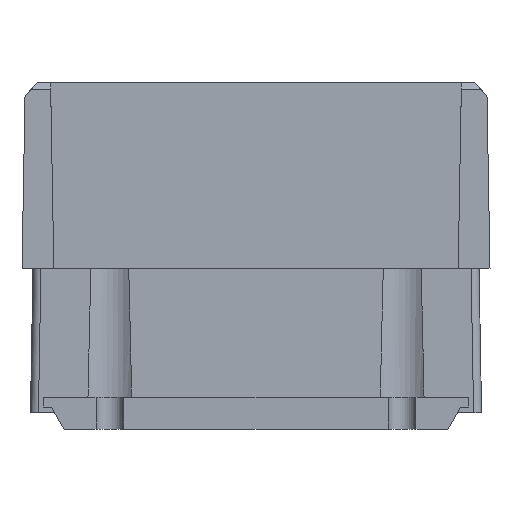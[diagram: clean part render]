
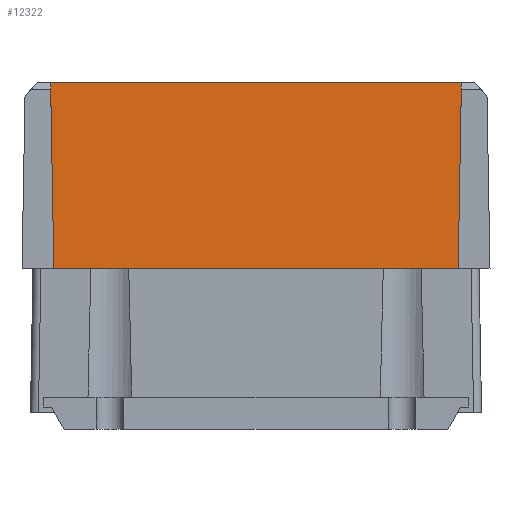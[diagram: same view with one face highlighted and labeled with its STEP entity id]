
A CAD part, left-side view. The second image highlights one B-rep face of the part: STEP entity #12322.
In plain terms, the highlighted planar face has unit normal (-1, 0, 0.018).
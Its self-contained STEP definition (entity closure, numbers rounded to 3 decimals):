
#1139=FACE_OUTER_BOUND('',#1902,.T.);
#1902=EDGE_LOOP('',(#10568,#10569,#10570,#10571,#10572,#10573,#10574,#10575));
#2585=LINE('',#18059,#3976);
#2727=LINE('',#18664,#4118);
#2728=LINE('',#18669,#4119);
#2790=LINE('',#19337,#4181);
#2794=LINE('',#19343,#4185);
#3302=LINE('',#20400,#4693);
#3303=LINE('',#20401,#4694);
#3304=LINE('',#20402,#4695);
#3976=VECTOR('',#14494,66.89);
#4118=VECTOR('',#15032,6.03);
#4119=VECTOR('',#15037,6.03);
#4181=VECTOR('',#15177,30.209);
#4185=VECTOR('',#15183,30.209);
#4693=VECTOR('',#16211,6.103);
#4694=VECTOR('',#16212,41.57);
#4695=VECTOR('',#16213,6.103);
#5333=VERTEX_POINT('',#17989);
#5367=VERTEX_POINT('',#18057);
#5523=VERTEX_POINT('',#18661);
#5524=VERTEX_POINT('',#18662);
#5525=VERTEX_POINT('',#18666);
#5526=VERTEX_POINT('',#18667);
#5601=VERTEX_POINT('',#19336);
#5602=VERTEX_POINT('',#19341);
#6653=EDGE_CURVE('',#5367,#5333,#2585,.T.);
#6902=EDGE_CURVE('',#5523,#5524,#2727,.F.);
#6904=EDGE_CURVE('',#5525,#5526,#2728,.F.);
#7006=EDGE_CURVE('',#5601,#5333,#2790,.T.);
#7010=EDGE_CURVE('',#5602,#5367,#2794,.T.);
#7536=EDGE_CURVE('',#5523,#5602,#3302,.T.);
#7537=EDGE_CURVE('',#5525,#5524,#3303,.T.);
#7538=EDGE_CURVE('',#5601,#5526,#3304,.T.);
#10568=ORIENTED_EDGE('',*,*,#6653,.F.);
#10569=ORIENTED_EDGE('',*,*,#7010,.F.);
#10570=ORIENTED_EDGE('',*,*,#7536,.F.);
#10571=ORIENTED_EDGE('',*,*,#6902,.T.);
#10572=ORIENTED_EDGE('',*,*,#7537,.F.);
#10573=ORIENTED_EDGE('',*,*,#6904,.T.);
#10574=ORIENTED_EDGE('',*,*,#7538,.F.);
#10575=ORIENTED_EDGE('',*,*,#7006,.T.);
#11593=PLANE('',#13215);
#12322=ADVANCED_FACE('',(#1139),#11593,.F.);
#13215=AXIS2_PLACEMENT_3D('',#20399,#16209,#16210);
#14494=DIRECTION('',(0.,-1.,0.));
#15032=DIRECTION('',(0.,1.,0.));
#15037=DIRECTION('',(0.,1.,0.));
#15177=DIRECTION('',(0.017,-0.017,1.));
#15183=DIRECTION('',(0.017,0.017,1.));
#16209=DIRECTION('center_axis',(1.,0.,
-0.017));
#16210=DIRECTION('ref_axis',(-0.017,0.,-1.));
#16211=DIRECTION('',(0.,1.,0.));
#16212=DIRECTION('',(0.,1.,0.));
#16213=DIRECTION('',(0.,1.,0.));
#17989=CARTESIAN_POINT('',(-40.373,-33.445,56.4));
#18057=CARTESIAN_POINT('',(-40.373,33.445,56.4));
#18059=CARTESIAN_POINT('',(-40.373,2.591,56.4));
#18661=CARTESIAN_POINT('',(-40.9,26.815,26.2));
#18662=CARTESIAN_POINT('',(-40.9,20.785,26.2));
#18664=CARTESIAN_POINT('',(-40.9,-16.459,26.2));
#18666=CARTESIAN_POINT('',(-40.9,-20.785,26.2));
#18667=CARTESIAN_POINT('',(-40.9,-26.815,26.2));
#18669=CARTESIAN_POINT('',(-40.9,-16.459,26.2));
#19336=CARTESIAN_POINT('',(-40.9,-32.918,26.2));
#19337=CARTESIAN_POINT('',(-40.373,-33.445,56.395));
#19341=CARTESIAN_POINT('',(-40.9,32.918,26.2));
#19343=CARTESIAN_POINT('',(-40.373,33.445,56.395));
#20399=CARTESIAN_POINT('Origin',(-40.373,-32.918,56.4));
#20400=CARTESIAN_POINT('',(-40.9,1.904,26.2));
#20401=CARTESIAN_POINT('',(-40.9,1.904,26.2));
#20402=CARTESIAN_POINT('',(-40.9,1.904,26.2));
